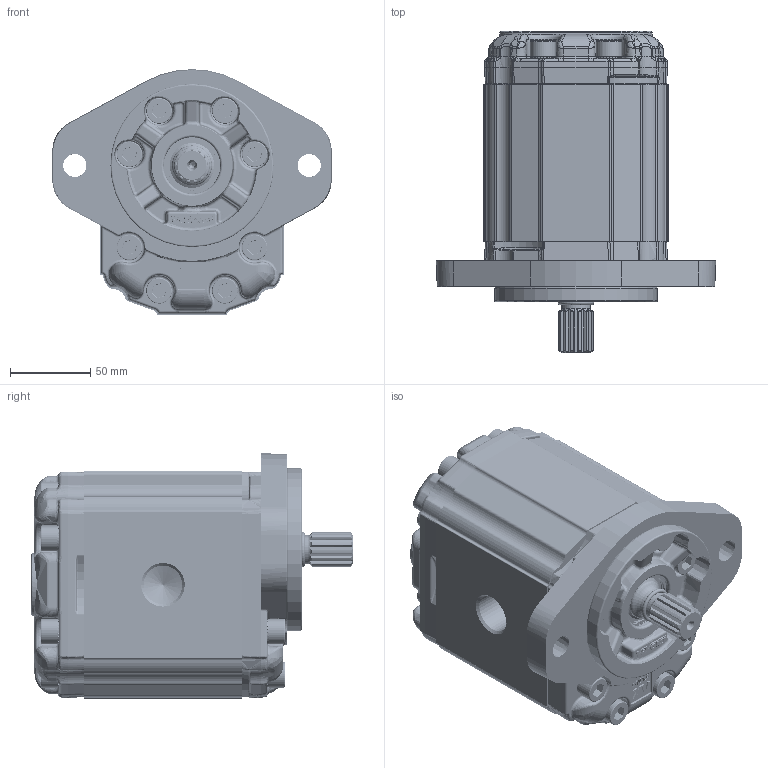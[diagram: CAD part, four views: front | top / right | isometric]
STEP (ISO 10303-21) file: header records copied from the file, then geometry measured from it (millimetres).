
FILE_DESCRIPTION(/* description */ ('Unknown'),/* implementation_level */ '2;1');
FILE_NAME(/* name */ 'X3P8231IEDA',/* time_stamp */ '2023-09-28T16:05:05+02:00',/* author */ ('Unknown'),/* organization */ ('Unknown'),/* preprocessor_version */ 'ST-DEVELOPER v16.7',/* originating_system */ 'Solid Edge',/* authorisation */ 'Unknown');
FILE_SCHEMA (('AUTOMOTIVE_DESIGN {1 0 10303 214 3 1 1}'));
Products named in the file (5): X3P8231IEDA; X3P31; 3I; X3EDH98; XP331-A
Assembly tree (4 placements, depth 2):
  X3P8231IEDA
    X3P31
    3I
    X3EDH98
    XP331-A
Bounding box: 174 x 200.2 x 153 mm (x, y, z)
Volume: 2280244 mm3; surface area: 228798.9 mm2
Topology: 4 solids, 5 shells, 4716 faces, 14354 edges, 8949 vertices
Faces by surface type: cylinder 1847, plane 1272, bspline 1254, torus 172, cone 145, sphere 26
Full cylindrical faces by diameter (mm): 2 x2, 10 x16, 10.35 x30, 10.5 x1, 14.314 x1, 14.315 x1, 15.8 x16, 16 x16, 18 x2, 24.117 x2, 24.98 x1, 25 x2, 25.968 x1, 28.16 x1, 30.291 x1, 31 x1, 31.293 x1, 32.742 x1, 34.956 x1, 35 x1, 35.2 x1, 37 x1, 101.6 x1
Entity records: 348366 total; most frequent: CARTESIAN_POINT 199865, ORIENTED_EDGE 27792, DIRECTION 19817, EDGE_CURVE 13896, VERTEX_POINT 8809, AXIS2_PLACEMENT_3D 7499, FACE_BOUND 5151, EDGE_LOOP 5147
